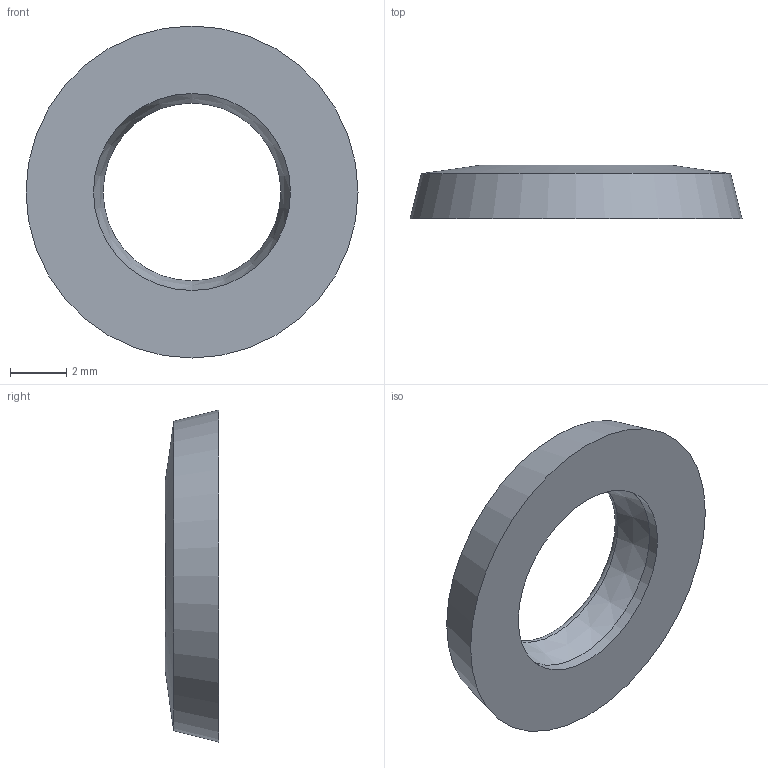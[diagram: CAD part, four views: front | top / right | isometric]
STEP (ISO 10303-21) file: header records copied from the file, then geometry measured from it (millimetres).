
FILE_DESCRIPTION( ( 'STEP AP203' ), '1' );
FILE_NAME( 'C:/Temp/Ganter_Step_05_03_2020/data/3_5/gn7600/Sealing ring GN 7600-11-7-2-EPDM-85.stp', '2020-03-12T13:43:52', ( 'License CC BY-ND 4.0' ), ( 'CADENAS' ), ' ', 'PARTsolutions', ' ' );
FILE_SCHEMA( ( 'CONFIG_CONTROL_DESIGN' ) );
Length unit declared in the file: millimetre
Products named in the file (1): _Sealing ring GN 7600-11-7-2-EPDM-85
Bounding box: 11.8 x 1.9 x 11.8 mm (x, y, z)
Volume: 115.2 mm3; surface area: 233.4 mm2
Topology: 1 solids, 1 shells, 6 faces, 11 edges, 6 vertices
Faces by surface type: cone 3, torus 1, cylinder 1, plane 1
Full cylindrical faces by diameter (mm): 7 x1
Entity records: 172 total; most frequent: DIRECTION 26, CARTESIAN_POINT 19, AXIS2_PLACEMENT_3D 13, EDGE_LOOP 12, ORIENTED_EDGE 12, FACE_OUTER_BOUND 8, ADVANCED_FACE 6, EDGE_CURVE 6
